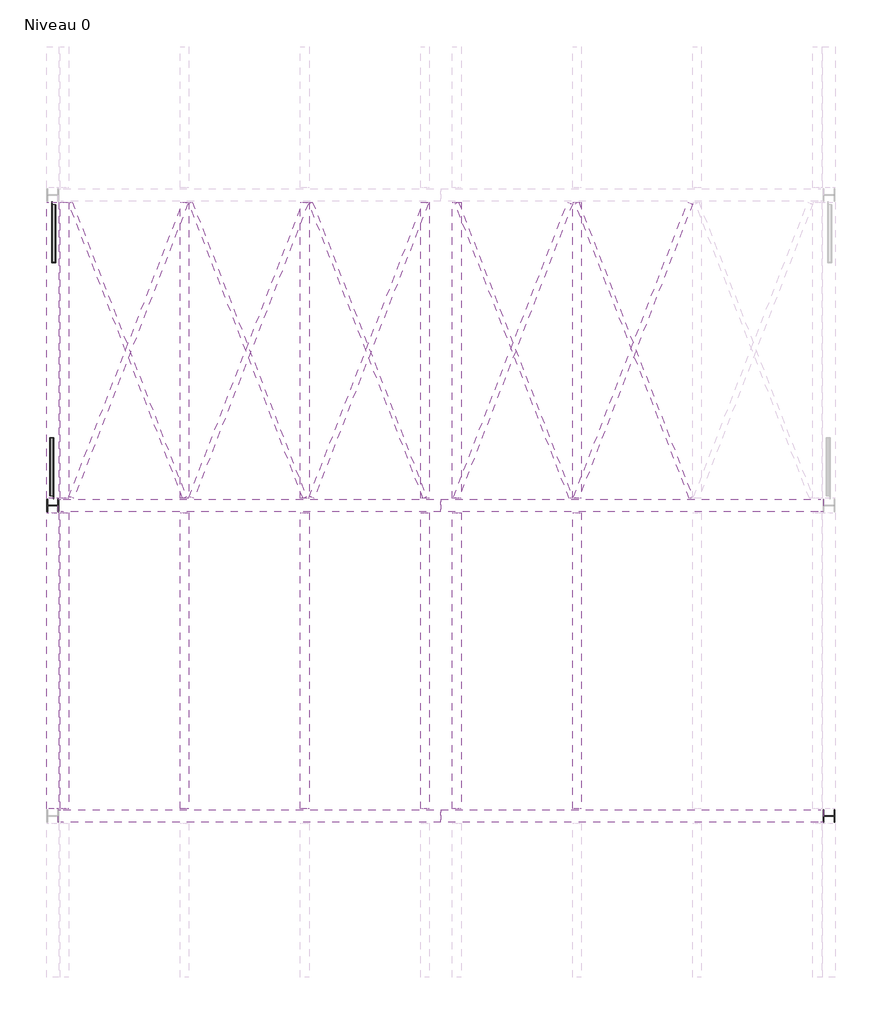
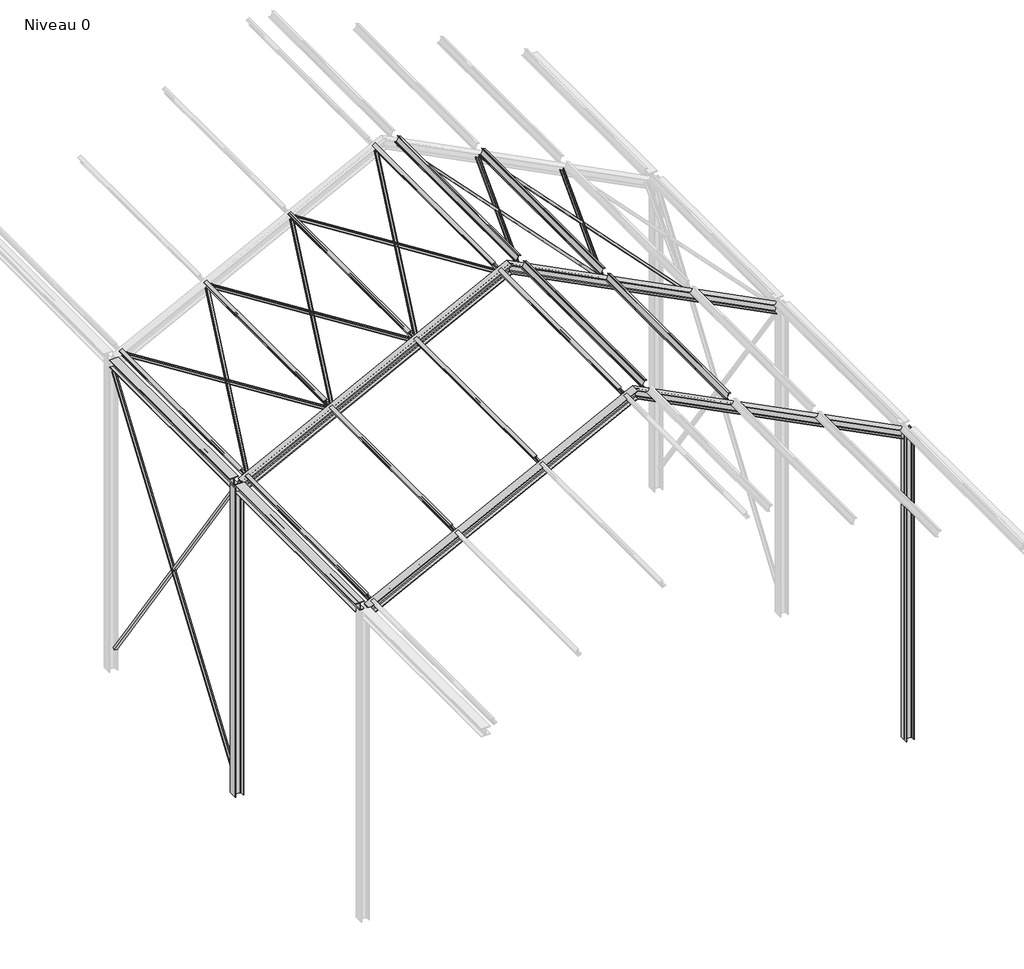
# One storey, part 2 of 3: 30 beams, 2 columns.
"""IFC4 building model written with IfcOpenShell, lengths in millimetres."""

from ifc_helpers import new_model, si_unit, frame, origin, place, context, project, spatial, polyline, circle_curve, ellipse_curve, transform, mapped, element, save
from ifc_brep_helpers import plane_surface, revolved_surface, advanced_brep
from components import hea160_7b7a9898, ipe_ipe120_a764803e, l50x5_e48557e0, l50x5_995c440c, l50x5_1feda4a4, hea160_ef068d4c

model = new_model("IFC4")

# Units and contexts
model_context = context("Model", 3, world=origin())
ifc_project = project(units=[si_unit("LENGTHUNIT", "METRE", prefix="MILLI")], contexts=[model_context])

# Site, building, storey
site = spatial("IfcSite", under=ifc_project)
building = spatial("IfcBuilding", under=site)
storey = spatial("IfcBuildingStorey", under=building, Name="Niveau 0", Elevation=0.0)

# Beams
placement = place(None, origin())
element("IfcBeam", 1, ObjectType="HE-A : HEA160", at=placement, inside=storey, context=model_context, shape_type="AdvancedBrep", body=[
    advanced_brep(
    [(136.5957173, 7920.0, 5609.1403443), (136.5957173, 7982.0, 5609.1403443), (129.7808261, 7997.0, 5622.5028762), (82.5309134, 7997.0, 5715.1497636), (75.7160222, 7982.0, 5728.5122955), (75.7160222, 7920.0, 5728.5122955), (71.6270875, 7920.0, 5736.5298146), (71.6270875, 8080.0, 5736.5298146), (75.7160222, 8080.0, 5728.5122955), (75.7160222, 8018.0, 5728.5122955), (82.5309134, 8003.0, 5715.1497636), (129.7808261, 8003.0, 5622.5028762), (136.5957173, 8018.0, 5609.1403443), (136.5957173, 8080.0, 5609.1403443), (140.684652, 8080.0, 5601.1228252), (140.684652, 7920.0, 5601.1228252), (5000.0, 7920.0, 8089.4765285), (5000.0, 7982.0, 8089.4765285), (5000.0, 7997.0, 8106.3146549), (5000.0, 7997.0, 8223.0589978), (5000.0, 7982.0, 8239.8971242), (5000.0, 7920.0, 8239.8971242), (5000.0, 7920.0, 8250.0), (5000.0, 8080.0, 8250.0), (5000.0, 8080.0, 8239.8971242), (5000.0, 8018.0, 8239.8971242), (5000.0, 8003.0, 8223.0589978), (5000.0, 8003.0, 8106.3146549), (5000.0, 8018.0, 8089.4765285), (5000.0, 8080.0, 8089.4765285), (5000.0, 8080.0, 8079.3736527), (5000.0, 7920.0, 8079.3736527)],
    [
        (0, 1),
        (1, 2, circle_curve(frame((129.7808261, 7982.0, 5622.5028762), z_axis=(0.8908354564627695, 0.0, 0.4543260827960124), x_axis=(0.0, 1.0, 0.0)), 15.0)),
        (2, 3),
        (3, 4, circle_curve(frame((82.5309134, 7982.0, 5715.1497636), z_axis=(0.8908354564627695, 0.0, 0.4543260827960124), x_axis=(0.0, 1.0, 0.0)), 15.0)),
        (4, 5),
        (5, 6),
        (6, 7),
        (7, 8),
        (8, 9),
        (9, 10, circle_curve(frame((82.5309134, 8018.0, 5715.1497636), z_axis=(0.8908354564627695, 0.0, 0.4543260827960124), x_axis=(0.0, 1.0, 0.0)), 15.0)),
        (10, 11),
        (11, 12, circle_curve(frame((129.7808261, 8018.0, 5622.5028762), z_axis=(0.8908354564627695, 0.0, 0.4543260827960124), x_axis=(0.0, 1.0, 0.0)), 15.0)),
        (12, 13),
        (13, 14),
        (14, 15),
        (15, 0),
        (0, 16),
        (16, 17),
        (17, 1),
        (17, 18, ellipse_curve(frame((5000.0, 7982.0, 8106.3146549), z_axis=(1.0, 0.0, 0.0), x_axis=(0.0, 0.0, 1.0)), 16.8381264, 15.0)),
        (18, 2),
        (18, 19),
        (19, 3),
        (19, 20, ellipse_curve(frame((5000.0, 7982.0, 8223.0589978), z_axis=(1.0, 0.0, 0.0), x_axis=(0.0, 0.0, 1.0)), 16.8381264, 15.0)),
        (20, 4),
        (20, 21),
        (21, 5),
        (21, 22),
        (22, 6),
        (22, 23),
        (23, 7),
        (23, 24),
        (24, 8),
        (24, 25),
        (25, 9),
        (25, 26, ellipse_curve(frame((5000.0, 8018.0, 8223.0589978), z_axis=(1.0, 0.0, 0.0), x_axis=(0.0, 0.0, 1.0)), 16.8381264, 15.0)),
        (26, 10),
        (26, 27),
        (27, 11),
        (27, 28, ellipse_curve(frame((5000.0, 8018.0, 8106.3146549), z_axis=(1.0, 0.0, 0.0), x_axis=(0.0, 0.0, 1.0)), 16.8381264, 15.0)),
        (28, 12),
        (28, 29),
        (29, 13),
        (29, 30),
        (30, 14),
        (30, 31),
        (31, 15),
        (31, 16),
    ],
    [
        plane_surface(frame((106.1558697, 8000.0, 5668.8263199), z_axis=(-0.8908354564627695, 0.0, -0.4543260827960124), x_axis=(-0.4543260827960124, 0.0, 0.8908354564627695))),
        plane_surface(frame((136.5957173, 7920.0, 5609.1403443), z_axis=(-0.4543260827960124, 0.0, 0.8908354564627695), x_axis=(0.8908354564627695, 0.0, 0.4543260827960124))),
        revolved_surface(polyline([(5006.814891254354, 7997.0, 8109.790249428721), (129.78082604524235, 7997.0, 5622.502876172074)]), (129.7808261, 7982.0, 5622.5028762), (0.8908354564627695, 0.0, 0.4543260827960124)),
        plane_surface(frame((129.7808261, 7997.0, 5622.5028762), z_axis=(0.0, -1.0, 0.0), x_axis=(0.8908354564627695, 0.0, 0.4543260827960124))),
        revolved_surface(polyline([(5006.8148912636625, 7997.0, 8226.534592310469), (82.5309134, 7997.0, 5715.1497636)]), (82.5309134, 7982.0, 5715.1497636), (0.8908354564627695, 0.0, 0.4543260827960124)),
        plane_surface(frame((75.7160222, 7982.0, 5728.5122955), z_axis=(0.4543260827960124, 0.0, -0.8908354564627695), x_axis=(0.8908354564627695, 0.0, 0.4543260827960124))),
        plane_surface(frame((75.7160222, 7920.0, 5728.5122955), z_axis=(0.0, -1.0, 0.0), x_axis=(0.8908354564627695, 0.0, 0.4543260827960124))),
        plane_surface(frame((71.6270875, 7920.0, 5736.5298146), z_axis=(-0.4543260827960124, 0.0, 0.8908354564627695), x_axis=(0.8908354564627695, 0.0, 0.4543260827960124))),
        plane_surface(frame((71.6270875, 8080.0, 5736.5298146), z_axis=(0.0, 1.0, 0.0), x_axis=(0.8908354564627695, 0.0, 0.4543260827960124))),
        plane_surface(frame((75.7160222, 8080.0, 5728.5122955), z_axis=(0.4543260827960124, 0.0, -0.8908354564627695), x_axis=(0.8908354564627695, 0.0, 0.4543260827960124))),
        revolved_surface(polyline([(5006.8148912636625, 8033.0, 8226.534592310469), (82.5309134, 8033.0, 5715.1497636)]), (82.5309134, 8018.0, 5715.1497636), (0.8908354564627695, 0.0, 0.4543260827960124)),
        plane_surface(frame((82.5309134, 8003.0, 5715.1497636), z_axis=(0.0, 1.0, 0.0), x_axis=(0.8908354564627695, 0.0, 0.4543260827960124))),
        revolved_surface(polyline([(5006.814891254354, 8033.0, 8109.790249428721), (129.78082604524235, 8033.0, 5622.502876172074)]), (129.7808261, 8018.0, 5622.5028762), (0.8908354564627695, 0.0, 0.4543260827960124)),
        plane_surface(frame((136.5957173, 8018.0, 5609.1403443), z_axis=(-0.4543260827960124, 0.0, 0.8908354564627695), x_axis=(0.8908354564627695, 0.0, 0.4543260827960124))),
        plane_surface(frame((136.5957173, 8080.0, 5609.1403443), z_axis=(0.0, 1.0, 0.0), x_axis=(0.8908354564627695, 0.0, 0.4543260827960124))),
        plane_surface(frame((140.684652, 8080.0, 5601.1228252), z_axis=(0.4543260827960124, 0.0, -0.8908354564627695), x_axis=(0.8908354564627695, 0.0, 0.4543260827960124))),
        plane_surface(frame((140.684652, 7920.0, 5601.1228252), z_axis=(0.0, -1.0, 0.0), x_axis=(0.8908354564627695, 0.0, 0.4543260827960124))),
        plane_surface(frame((5000.0, 8000.0, 8079.3736527), z_axis=(1.0, 0.0, 0.0), x_axis=(0.0, -1.0, 0.0))),
    ],
    [
        (0, [[1, 2, 3, 4, 5, 6, 7, 8, 9, 10, 11, 12, 13, 14, 15, 16]]),
        (1, [[-1, 17, 18, 19]]),
        (2, [[-2, -19, 20, 21]]),
        (3, [[-3, -21, 22, 23]]),
        (4, [[-4, -23, 24, 25]]),
        (5, [[-5, -25, 26, 27]]),
        (6, [[-6, -27, 28, 29]]),
        (7, [[-7, -29, 30, 31]]),
        (8, [[-8, -31, 32, 33]]),
        (9, [[-9, -33, 34, 35]]),
        (10, [[-10, -35, 36, 37]]),
        (11, [[-11, -37, 38, 39]]),
        (12, [[-12, -39, 40, 41]]),
        (13, [[-13, -41, 42, 43]]),
        (14, [[-14, -43, 44, 45]]),
        (15, [[-15, -45, 46, 47]]),
        (16, [[-16, -47, 48, -17]]),
        (17, [[-48, -46, -44, -42, -40, -38, -36, -34, -32, -30, -28, -26, -24, -22, -20, -18]]),
    ],
),
])
element("IfcBeam", 2, ObjectType="HE-A : HEA160", at=placement, inside=storey, context=model_context, shape_type="AdvancedBrep", body=[
    advanced_brep(
    [(9863.4042827, 8080.0, 5609.1403443), (9863.4042827, 8018.0, 5609.1403443), (9870.2191739, 8003.0, 5622.5028762), (9917.4690866, 8003.0, 5715.1497636), (9924.2839778, 8018.0, 5728.5122955), (9924.2839778, 8080.0, 5728.5122955), (9928.3729125, 8080.0, 5736.5298146), (9928.3729125, 7920.0, 5736.5298146), (9924.2839778, 7920.0, 5728.5122955), (9924.2839778, 7982.0, 5728.5122955), (9917.4690866, 7997.0, 5715.1497636), (9870.2191739, 7997.0, 5622.5028762), (9863.4042827, 7982.0, 5609.1403443), (9863.4042827, 7920.0, 5609.1403443), (9859.315348, 7920.0, 5601.1228252), (9859.315348, 8080.0, 5601.1228252), (5000.0, 8080.0, 8089.4765285), (5000.0, 8018.0, 8089.4765285), (5000.0, 8003.0, 8106.3146549), (5000.0, 8003.0, 8223.0589978), (5000.0, 8018.0, 8239.8971242), (5000.0, 8080.0, 8239.8971242), (5000.0, 8080.0, 8250.0), (5000.0, 7920.0, 8250.0), (5000.0, 7920.0, 8239.8971242), (5000.0, 7982.0, 8239.8971242), (5000.0, 7997.0, 8223.0589978), (5000.0, 7997.0, 8106.3146549), (5000.0, 7982.0, 8089.4765285), (5000.0, 7920.0, 8089.4765285), (5000.0, 7920.0, 8079.3736527), (5000.0, 8080.0, 8079.3736527)],
    [
        (0, 1),
        (1, 2, circle_curve(frame((9870.2191739, 8018.0, 5622.5028762), z_axis=(-0.8908354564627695, 0.0, 0.4543260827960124), x_axis=(0.0, -1.0, 0.0)), 15.0)),
        (2, 3),
        (3, 4, circle_curve(frame((9917.4690866, 8018.0, 5715.1497636), z_axis=(-0.8908354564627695, 0.0, 0.4543260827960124), x_axis=(0.0, -1.0, 0.0)), 15.0)),
        (4, 5),
        (5, 6),
        (6, 7),
        (7, 8),
        (8, 9),
        (9, 10, circle_curve(frame((9917.4690866, 7982.0, 5715.1497636), z_axis=(-0.8908354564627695, 0.0, 0.4543260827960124), x_axis=(0.0, -1.0, 0.0)), 15.0)),
        (10, 11),
        (11, 12, circle_curve(frame((9870.2191739, 7982.0, 5622.5028762), z_axis=(-0.8908354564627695, 0.0, 0.4543260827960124), x_axis=(0.0, -1.0, 0.0)), 15.0)),
        (12, 13),
        (13, 14),
        (14, 15),
        (15, 0),
        (0, 16),
        (16, 17),
        (17, 1),
        (17, 18, ellipse_curve(frame((5000.0, 8018.0, 8106.3146549), z_axis=(-1.0, 0.0, 0.0), x_axis=(0.0, 0.0, 1.0)), 16.8381264, 15.0)),
        (18, 2),
        (18, 19),
        (19, 3),
        (19, 20, ellipse_curve(frame((5000.0, 8018.0, 8223.0589978), z_axis=(-1.0, 0.0, 0.0), x_axis=(0.0, 0.0, 1.0)), 16.8381264, 15.0)),
        (20, 4),
        (20, 21),
        (21, 5),
        (21, 22),
        (22, 6),
        (22, 23),
        (23, 7),
        (23, 24),
        (24, 8),
        (24, 25),
        (25, 9),
        (25, 26, ellipse_curve(frame((5000.0, 7982.0, 8223.0589978), z_axis=(-1.0, 0.0, 0.0), x_axis=(0.0, 0.0, 1.0)), 16.8381264, 15.0)),
        (26, 10),
        (26, 27),
        (27, 11),
        (27, 28, ellipse_curve(frame((5000.0, 7982.0, 8106.3146549), z_axis=(-1.0, 0.0, 0.0), x_axis=(0.0, 0.0, 1.0)), 16.8381264, 15.0)),
        (28, 12),
        (28, 29),
        (29, 13),
        (29, 30),
        (30, 14),
        (30, 31),
        (31, 15),
        (31, 16),
    ],
    [
        plane_surface(frame((9893.8441303, 8000.0, 5668.8263199), z_axis=(0.8908354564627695, 0.0, -0.4543260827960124), x_axis=(0.4543260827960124, 0.0, 0.8908354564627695))),
        plane_surface(frame((9863.4042827, 8080.0, 5609.1403443), z_axis=(0.4543260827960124, 0.0, 0.8908354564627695), x_axis=(-0.8908354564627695, 0.0, 0.4543260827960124))),
        revolved_surface(polyline([(4993.185108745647, 8003.0, 8109.790249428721), (9870.219173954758, 8003.0, 5622.502876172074)]), (9870.2191739, 8018.0, 5622.5028762), (-0.8908354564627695, 0.0, 0.4543260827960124)),
        plane_surface(frame((9870.2191739, 8003.0, 5622.5028762), z_axis=(0.0, 1.0, 0.0), x_axis=(-0.8908354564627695, 0.0, 0.4543260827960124))),
        revolved_surface(polyline([(4993.1851087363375, 8003.0, 8226.534592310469), (9917.4690866, 8003.0, 5715.1497636)]), (9917.4690866, 8018.0, 5715.1497636), (-0.8908354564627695, 0.0, 0.4543260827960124)),
        plane_surface(frame((9924.2839778, 8018.0, 5728.5122955), z_axis=(-0.4543260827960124, 0.0, -0.8908354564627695), x_axis=(-0.8908354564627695, 0.0, 0.4543260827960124))),
        plane_surface(frame((9924.2839778, 8080.0, 5728.5122955), z_axis=(0.0, 1.0, 0.0), x_axis=(-0.8908354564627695, 0.0, 0.4543260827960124))),
        plane_surface(frame((9928.3729125, 8080.0, 5736.5298146), z_axis=(0.4543260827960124, 0.0, 0.8908354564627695), x_axis=(-0.8908354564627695, 0.0, 0.4543260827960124))),
        plane_surface(frame((9928.3729125, 7920.0, 5736.5298146), z_axis=(0.0, -1.0, 0.0), x_axis=(-0.8908354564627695, 0.0, 0.4543260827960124))),
        plane_surface(frame((9924.2839778, 7920.0, 5728.5122955), z_axis=(-0.4543260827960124, 0.0, -0.8908354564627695), x_axis=(-0.8908354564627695, 0.0, 0.4543260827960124))),
        revolved_surface(polyline([(4993.1851087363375, 7967.0, 8226.534592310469), (9917.4690866, 7967.0, 5715.1497636)]), (9917.4690866, 7982.0, 5715.1497636), (-0.8908354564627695, 0.0, 0.4543260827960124)),
        plane_surface(frame((9917.4690866, 7997.0, 5715.1497636), z_axis=(0.0, -1.0, 0.0), x_axis=(-0.8908354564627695, 0.0, 0.4543260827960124))),
        revolved_surface(polyline([(4993.185108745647, 7967.0, 8109.790249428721), (9870.219173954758, 7967.0, 5622.502876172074)]), (9870.2191739, 7982.0, 5622.5028762), (-0.8908354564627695, 0.0, 0.4543260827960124)),
        plane_surface(frame((9863.4042827, 7982.0, 5609.1403443), z_axis=(0.4543260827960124, 0.0, 0.8908354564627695), x_axis=(-0.8908354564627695, 0.0, 0.4543260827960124))),
        plane_surface(frame((9863.4042827, 7920.0, 5609.1403443), z_axis=(0.0, -1.0, 0.0), x_axis=(-0.8908354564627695, 0.0, 0.4543260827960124))),
        plane_surface(frame((9859.315348, 7920.0, 5601.1228252), z_axis=(-0.4543260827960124, 0.0, -0.8908354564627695), x_axis=(-0.8908354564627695, 0.0, 0.4543260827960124))),
        plane_surface(frame((9859.315348, 8080.0, 5601.1228252), z_axis=(0.0, 1.0, 0.0), x_axis=(-0.8908354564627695, 0.0, 0.4543260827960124))),
        plane_surface(frame((5000.0, 8000.0, 8079.3736527), z_axis=(-1.0, 0.0, 0.0), x_axis=(0.0, 1.0, 0.0))),
    ],
    [
        (0, [[1, 2, 3, 4, 5, 6, 7, 8, 9, 10, 11, 12, 13, 14, 15, 16]]),
        (1, [[-1, 17, 18, 19]]),
        (2, [[-2, -19, 20, 21]]),
        (3, [[-3, -21, 22, 23]]),
        (4, [[-4, -23, 24, 25]]),
        (5, [[-5, -25, 26, 27]]),
        (6, [[-6, -27, 28, 29]]),
        (7, [[-7, -29, 30, 31]]),
        (8, [[-8, -31, 32, 33]]),
        (9, [[-9, -33, 34, 35]]),
        (10, [[-10, -35, 36, 37]]),
        (11, [[-11, -37, 38, 39]]),
        (12, [[-12, -39, 40, 41]]),
        (13, [[-13, -41, 42, 43]]),
        (14, [[-14, -43, 44, 45]]),
        (15, [[-15, -45, 46, 47]]),
        (16, [[-16, -47, 48, -17]]),
        (17, [[-48, -46, -44, -42, -40, -38, -36, -34, -32, -30, -28, -26, -24, -22, -20, -18]]),
    ],
),
])
element("IfcBeam", 3, ObjectType="HE-A : HEA160", at=placement, inside=storey, context=model_context, shape_type="AdvancedBrep", body=[
    advanced_brep(
    [(136.5957173, 11920.0, 5609.1403443), (136.5957173, 11982.0, 5609.1403443), (129.7808261, 11997.0, 5622.5028762), (82.5309134, 11997.0, 5715.1497636), (75.7160222, 11982.0, 5728.5122955), (75.7160222, 11920.0, 5728.5122955), (71.6270875, 11920.0, 5736.5298146), (71.6270875, 12080.0, 5736.5298146), (75.7160222, 12080.0, 5728.5122955), (75.7160222, 12018.0, 5728.5122955), (82.5309134, 12003.0, 5715.1497636), (129.7808261, 12003.0, 5622.5028762), (136.5957173, 12018.0, 5609.1403443), (136.5957173, 12080.0, 5609.1403443), (140.684652, 12080.0, 5601.1228252), (140.684652, 11920.0, 5601.1228252), (5000.0, 11920.0, 8089.4765285), (5000.0, 11982.0, 8089.4765285), (5000.0, 11997.0, 8106.3146549), (5000.0, 11997.0, 8223.0589978), (5000.0, 11982.0, 8239.8971242), (5000.0, 11920.0, 8239.8971242), (5000.0, 11920.0, 8250.0), (5000.0, 12080.0, 8250.0), (5000.0, 12080.0, 8239.8971242), (5000.0, 12018.0, 8239.8971242), (5000.0, 12003.0, 8223.0589978), (5000.0, 12003.0, 8106.3146549), (5000.0, 12018.0, 8089.4765285), (5000.0, 12080.0, 8089.4765285), (5000.0, 12080.0, 8079.3736527), (5000.0, 11920.0, 8079.3736527)],
    [
        (0, 1),
        (1, 2, circle_curve(frame((129.7808261, 11982.0, 5622.5028762), z_axis=(0.8908354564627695, 0.0, 0.4543260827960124), x_axis=(0.0, 1.0, 0.0)), 15.0)),
        (2, 3),
        (3, 4, circle_curve(frame((82.5309134, 11982.0, 5715.1497636), z_axis=(0.8908354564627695, 0.0, 0.4543260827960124), x_axis=(0.0, 1.0, 0.0)), 15.0)),
        (4, 5),
        (5, 6),
        (6, 7),
        (7, 8),
        (8, 9),
        (9, 10, circle_curve(frame((82.5309134, 12018.0, 5715.1497636), z_axis=(0.8908354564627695, 0.0, 0.4543260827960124), x_axis=(0.0, 1.0, 0.0)), 15.0)),
        (10, 11),
        (11, 12, circle_curve(frame((129.7808261, 12018.0, 5622.5028762), z_axis=(0.8908354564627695, 0.0, 0.4543260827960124), x_axis=(0.0, 1.0, 0.0)), 15.0)),
        (12, 13),
        (13, 14),
        (14, 15),
        (15, 0),
        (0, 16),
        (16, 17),
        (17, 1),
        (17, 18, ellipse_curve(frame((5000.0, 11982.0, 8106.3146549), z_axis=(1.0, 0.0, 0.0), x_axis=(0.0, 0.0, 1.0)), 16.8381264, 15.0)),
        (18, 2),
        (18, 19),
        (19, 3),
        (19, 20, ellipse_curve(frame((5000.0, 11982.0, 8223.0589978), z_axis=(1.0, 0.0, 0.0), x_axis=(0.0, 0.0, 1.0)), 16.8381264, 15.0)),
        (20, 4),
        (20, 21),
        (21, 5),
        (21, 22),
        (22, 6),
        (22, 23),
        (23, 7),
        (23, 24),
        (24, 8),
        (24, 25),
        (25, 9),
        (25, 26, ellipse_curve(frame((5000.0, 12018.0, 8223.0589978), z_axis=(1.0, 0.0, 0.0), x_axis=(0.0, 0.0, 1.0)), 16.8381264, 15.0)),
        (26, 10),
        (26, 27),
        (27, 11),
        (27, 28, ellipse_curve(frame((5000.0, 12018.0, 8106.3146549), z_axis=(1.0, 0.0, 0.0), x_axis=(0.0, 0.0, 1.0)), 16.8381264, 15.0)),
        (28, 12),
        (28, 29),
        (29, 13),
        (29, 30),
        (30, 14),
        (30, 31),
        (31, 15),
        (31, 16),
    ],
    [
        plane_surface(frame((106.1558697, 12000.0, 5668.8263199), z_axis=(-0.8908354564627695, 0.0, -0.4543260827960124), x_axis=(-0.4543260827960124, 0.0, 0.8908354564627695))),
        plane_surface(frame((136.5957173, 11920.0, 5609.1403443), z_axis=(-0.4543260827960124, 0.0, 0.8908354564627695), x_axis=(0.8908354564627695, 0.0, 0.4543260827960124))),
        revolved_surface(polyline([(5006.814891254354, 11997.0, 8109.790249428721), (129.78082604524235, 11997.0, 5622.502876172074)]), (129.7808261, 11982.0, 5622.5028762), (0.8908354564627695, 0.0, 0.4543260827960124)),
        plane_surface(frame((129.7808261, 11997.0, 5622.5028762), z_axis=(0.0, -1.0, 0.0), x_axis=(0.8908354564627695, 0.0, 0.4543260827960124))),
        revolved_surface(polyline([(5006.8148912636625, 11997.0, 8226.534592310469), (82.5309134, 11997.0, 5715.1497636)]), (82.5309134, 11982.0, 5715.1497636), (0.8908354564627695, 0.0, 0.4543260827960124)),
        plane_surface(frame((75.7160222, 11982.0, 5728.5122955), z_axis=(0.4543260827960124, 0.0, -0.8908354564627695), x_axis=(0.8908354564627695, 0.0, 0.4543260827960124))),
        plane_surface(frame((75.7160222, 11920.0, 5728.5122955), z_axis=(0.0, -1.0, 0.0), x_axis=(0.8908354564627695, 0.0, 0.4543260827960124))),
        plane_surface(frame((71.6270875, 11920.0, 5736.5298146), z_axis=(-0.4543260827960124, 0.0, 0.8908354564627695), x_axis=(0.8908354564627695, 0.0, 0.4543260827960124))),
        plane_surface(frame((71.6270875, 12080.0, 5736.5298146), z_axis=(0.0, 1.0, 0.0), x_axis=(0.8908354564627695, 0.0, 0.4543260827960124))),
        plane_surface(frame((75.7160222, 12080.0, 5728.5122955), z_axis=(0.4543260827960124, 0.0, -0.8908354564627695), x_axis=(0.8908354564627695, 0.0, 0.4543260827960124))),
        revolved_surface(polyline([(5006.8148912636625, 12033.0, 8226.534592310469), (82.5309134, 12033.0, 5715.1497636)]), (82.5309134, 12018.0, 5715.1497636), (0.8908354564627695, 0.0, 0.4543260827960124)),
        plane_surface(frame((82.5309134, 12003.0, 5715.1497636), z_axis=(0.0, 1.0, 0.0), x_axis=(0.8908354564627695, 0.0, 0.4543260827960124))),
        revolved_surface(polyline([(5006.814891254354, 12033.0, 8109.790249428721), (129.78082604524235, 12033.0, 5622.502876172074)]), (129.7808261, 12018.0, 5622.5028762), (0.8908354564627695, 0.0, 0.4543260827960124)),
        plane_surface(frame((136.5957173, 12018.0, 5609.1403443), z_axis=(-0.4543260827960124, 0.0, 0.8908354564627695), x_axis=(0.8908354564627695, 0.0, 0.4543260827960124))),
        plane_surface(frame((136.5957173, 12080.0, 5609.1403443), z_axis=(0.0, 1.0, 0.0), x_axis=(0.8908354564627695, 0.0, 0.4543260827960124))),
        plane_surface(frame((140.684652, 12080.0, 5601.1228252), z_axis=(0.4543260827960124, 0.0, -0.8908354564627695), x_axis=(0.8908354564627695, 0.0, 0.4543260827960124))),
        plane_surface(frame((140.684652, 11920.0, 5601.1228252), z_axis=(0.0, -1.0, 0.0), x_axis=(0.8908354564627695, 0.0, 0.4543260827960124))),
        plane_surface(frame((5000.0, 12000.0, 8079.3736527), z_axis=(1.0, 0.0, 0.0), x_axis=(0.0, -1.0, 0.0))),
    ],
    [
        (0, [[1, 2, 3, 4, 5, 6, 7, 8, 9, 10, 11, 12, 13, 14, 15, 16]]),
        (1, [[-1, 17, 18, 19]]),
        (2, [[-2, -19, 20, 21]]),
        (3, [[-3, -21, 22, 23]]),
        (4, [[-4, -23, 24, 25]]),
        (5, [[-5, -25, 26, 27]]),
        (6, [[-6, -27, 28, 29]]),
        (7, [[-7, -29, 30, 31]]),
        (8, [[-8, -31, 32, 33]]),
        (9, [[-9, -33, 34, 35]]),
        (10, [[-10, -35, 36, 37]]),
        (11, [[-11, -37, 38, 39]]),
        (12, [[-12, -39, 40, 41]]),
        (13, [[-13, -41, 42, 43]]),
        (14, [[-14, -43, 44, 45]]),
        (15, [[-15, -45, 46, 47]]),
        (16, [[-16, -47, 48, -17]]),
        (17, [[-48, -46, -44, -42, -40, -38, -36, -34, -32, -30, -28, -26, -24, -22, -20, -18]]),
    ],
),
])
element("IfcBeam", 4, ObjectType="HE-A : HEA160", at=placement, inside=storey, context=model_context, shape_type="AdvancedBrep", body=[
    advanced_brep(
    [(9863.4042827, 12080.0, 5609.1403443), (9863.4042827, 12018.0, 5609.1403443), (9870.2191739, 12003.0, 5622.5028762), (9917.4690866, 12003.0, 5715.1497636), (9924.2839778, 12018.0, 5728.5122955), (9924.2839778, 12080.0, 5728.5122955), (9928.3729125, 12080.0, 5736.5298146), (9928.3729125, 11920.0, 5736.5298146), (9924.2839778, 11920.0, 5728.5122955), (9924.2839778, 11982.0, 5728.5122955), (9917.4690866, 11997.0, 5715.1497636), (9870.2191739, 11997.0, 5622.5028762), (9863.4042827, 11982.0, 5609.1403443), (9863.4042827, 11920.0, 5609.1403443), (9859.315348, 11920.0, 5601.1228252), (9859.315348, 12080.0, 5601.1228252), (5000.0, 12080.0, 8089.4765285), (5000.0, 12018.0, 8089.4765285), (5000.0, 12003.0, 8106.3146549), (5000.0, 12003.0, 8223.0589978), (5000.0, 12018.0, 8239.8971242), (5000.0, 12080.0, 8239.8971242), (5000.0, 12080.0, 8250.0), (5000.0, 11920.0, 8250.0), (5000.0, 11920.0, 8239.8971242), (5000.0, 11982.0, 8239.8971242), (5000.0, 11997.0, 8223.0589978), (5000.0, 11997.0, 8106.3146549), (5000.0, 11982.0, 8089.4765285), (5000.0, 11920.0, 8089.4765285), (5000.0, 11920.0, 8079.3736527), (5000.0, 12080.0, 8079.3736527)],
    [
        (0, 1),
        (1, 2, circle_curve(frame((9870.2191739, 12018.0, 5622.5028762), z_axis=(-0.8908354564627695, 0.0, 0.4543260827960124), x_axis=(0.0, -1.0, 0.0)), 15.0)),
        (2, 3),
        (3, 4, circle_curve(frame((9917.4690866, 12018.0, 5715.1497636), z_axis=(-0.8908354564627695, 0.0, 0.4543260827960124), x_axis=(0.0, -1.0, 0.0)), 15.0)),
        (4, 5),
        (5, 6),
        (6, 7),
        (7, 8),
        (8, 9),
        (9, 10, circle_curve(frame((9917.4690866, 11982.0, 5715.1497636), z_axis=(-0.8908354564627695, 0.0, 0.4543260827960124), x_axis=(0.0, -1.0, 0.0)), 15.0)),
        (10, 11),
        (11, 12, circle_curve(frame((9870.2191739, 11982.0, 5622.5028762), z_axis=(-0.8908354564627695, 0.0, 0.4543260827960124), x_axis=(0.0, -1.0, 0.0)), 15.0)),
        (12, 13),
        (13, 14),
        (14, 15),
        (15, 0),
        (0, 16),
        (16, 17),
        (17, 1),
        (17, 18, ellipse_curve(frame((5000.0, 12018.0, 8106.3146549), z_axis=(-1.0, 0.0, 0.0), x_axis=(0.0, 0.0, 1.0)), 16.8381264, 15.0)),
        (18, 2),
        (18, 19),
        (19, 3),
        (19, 20, ellipse_curve(frame((5000.0, 12018.0, 8223.0589978), z_axis=(-1.0, 0.0, 0.0), x_axis=(0.0, 0.0, 1.0)), 16.8381264, 15.0)),
        (20, 4),
        (20, 21),
        (21, 5),
        (21, 22),
        (22, 6),
        (22, 23),
        (23, 7),
        (23, 24),
        (24, 8),
        (24, 25),
        (25, 9),
        (25, 26, ellipse_curve(frame((5000.0, 11982.0, 8223.0589978), z_axis=(-1.0, 0.0, 0.0), x_axis=(0.0, 0.0, 1.0)), 16.8381264, 15.0)),
        (26, 10),
        (26, 27),
        (27, 11),
        (27, 28, ellipse_curve(frame((5000.0, 11982.0, 8106.3146549), z_axis=(-1.0, 0.0, 0.0), x_axis=(0.0, 0.0, 1.0)), 16.8381264, 15.0)),
        (28, 12),
        (28, 29),
        (29, 13),
        (29, 30),
        (30, 14),
        (30, 31),
        (31, 15),
        (31, 16),
    ],
    [
        plane_surface(frame((9893.8441303, 12000.0, 5668.8263199), z_axis=(0.8908354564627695, 0.0, -0.4543260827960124), x_axis=(0.4543260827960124, 0.0, 0.8908354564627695))),
        plane_surface(frame((9863.4042827, 12080.0, 5609.1403443), z_axis=(0.4543260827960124, 0.0, 0.8908354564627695), x_axis=(-0.8908354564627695, 0.0, 0.4543260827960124))),
        revolved_surface(polyline([(4993.185108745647, 12003.0, 8109.790249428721), (9870.219173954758, 12003.0, 5622.502876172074)]), (9870.2191739, 12018.0, 5622.5028762), (-0.8908354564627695, 0.0, 0.4543260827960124)),
        plane_surface(frame((9870.2191739, 12003.0, 5622.5028762), z_axis=(0.0, 1.0, 0.0), x_axis=(-0.8908354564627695, 0.0, 0.4543260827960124))),
        revolved_surface(polyline([(4993.1851087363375, 12003.0, 8226.534592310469), (9917.4690866, 12003.0, 5715.1497636)]), (9917.4690866, 12018.0, 5715.1497636), (-0.8908354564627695, 0.0, 0.4543260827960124)),
        plane_surface(frame((9924.2839778, 12018.0, 5728.5122955), z_axis=(-0.4543260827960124, 0.0, -0.8908354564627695), x_axis=(-0.8908354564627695, 0.0, 0.4543260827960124))),
        plane_surface(frame((9924.2839778, 12080.0, 5728.5122955), z_axis=(0.0, 1.0, 0.0), x_axis=(-0.8908354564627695, 0.0, 0.4543260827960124))),
        plane_surface(frame((9928.3729125, 12080.0, 5736.5298146), z_axis=(0.4543260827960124, 0.0, 0.8908354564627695), x_axis=(-0.8908354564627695, 0.0, 0.4543260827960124))),
        plane_surface(frame((9928.3729125, 11920.0, 5736.5298146), z_axis=(0.0, -1.0, 0.0), x_axis=(-0.8908354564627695, 0.0, 0.4543260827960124))),
        plane_surface(frame((9924.2839778, 11920.0, 5728.5122955), z_axis=(-0.4543260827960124, 0.0, -0.8908354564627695), x_axis=(-0.8908354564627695, 0.0, 0.4543260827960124))),
        revolved_surface(polyline([(4993.1851087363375, 11967.0, 8226.534592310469), (9917.4690866, 11967.0, 5715.1497636)]), (9917.4690866, 11982.0, 5715.1497636), (-0.8908354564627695, 0.0, 0.4543260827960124)),
        plane_surface(frame((9917.4690866, 11997.0, 5715.1497636), z_axis=(0.0, -1.0, 0.0), x_axis=(-0.8908354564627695, 0.0, 0.4543260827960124))),
        revolved_surface(polyline([(4993.185108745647, 11967.0, 8109.790249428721), (9870.219173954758, 11967.0, 5622.502876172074)]), (9870.2191739, 11982.0, 5622.5028762), (-0.8908354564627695, 0.0, 0.4543260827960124)),
        plane_surface(frame((9863.4042827, 11982.0, 5609.1403443), z_axis=(0.4543260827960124, 0.0, 0.8908354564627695), x_axis=(-0.8908354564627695, 0.0, 0.4543260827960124))),
        plane_surface(frame((9863.4042827, 11920.0, 5609.1403443), z_axis=(0.0, -1.0, 0.0), x_axis=(-0.8908354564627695, 0.0, 0.4543260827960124))),
        plane_surface(frame((9859.315348, 11920.0, 5601.1228252), z_axis=(-0.4543260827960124, 0.0, -0.8908354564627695), x_axis=(-0.8908354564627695, 0.0, 0.4543260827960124))),
        plane_surface(frame((9859.315348, 12080.0, 5601.1228252), z_axis=(0.0, 1.0, 0.0), x_axis=(-0.8908354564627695, 0.0, 0.4543260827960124))),
        plane_surface(frame((5000.0, 12000.0, 8079.3736527), z_axis=(-1.0, 0.0, 0.0), x_axis=(0.0, 1.0, 0.0))),
    ],
    [
        (0, [[1, 2, 3, 4, 5, 6, 7, 8, 9, 10, 11, 12, 13, 14, 15, 16]]),
        (1, [[-1, 17, 18, 19]]),
        (2, [[-2, -19, 20, 21]]),
        (3, [[-3, -21, 22, 23]]),
        (4, [[-4, -23, 24, 25]]),
        (5, [[-5, -25, 26, 27]]),
        (6, [[-6, -27, 28, 29]]),
        (7, [[-7, -29, 30, 31]]),
        (8, [[-8, -31, 32, 33]]),
        (9, [[-9, -33, 34, 35]]),
        (10, [[-10, -35, 36, 37]]),
        (11, [[-11, -37, 38, 39]]),
        (12, [[-12, -39, 40, 41]]),
        (13, [[-13, -41, 42, 43]]),
        (14, [[-14, -43, 44, 45]]),
        (15, [[-15, -45, 46, 47]]),
        (16, [[-16, -47, 48, -17]]),
        (17, [[-48, -46, -44, -42, -40, -38, -36, -34, -32, -30, -28, -26, -24, -22, -20, -18]]),
    ],
),
])
hea160_shape = hea160_7b7a9898(model_context)
element("IfcBeam", 5, ObjectType="HE-A : HEA160", at=placement, inside=storey, context=model_context, shape_type="MappedRepresentation", body=[
    mapped(hea160_shape, transform((0.0, 10000.0, 5700.0), x_axis=(0.0, -1.0, 0.0), y_axis=(1.0, 0.0, 0.0), z_axis=(0.0, 0.0, 1.0))),
])
element("IfcBeam", 6, ObjectType="HE-A : HEA160", at=placement, inside=storey, context=model_context, shape_type="MappedRepresentation", body=[
    mapped(hea160_shape, transform((0.0, 14000.0, 5700.0), x_axis=(0.0, -1.0, 0.0), y_axis=(1.0, 0.0, 0.0), z_axis=(0.0, 0.0, 1.0))),
])
ipe_ipe120_shape = ipe_ipe120_a764803e(model_context)
element("IfcBeam", 7, ObjectType="IPE : IPE120", at=placement, inside=storey, context=model_context, shape_type="MappedRepresentation", body=[
    mapped(ipe_ipe120_shape, transform((150.9075263, 10000.0, 5844.3153439), x_axis=(0.0, -1.0, 0.0), y_axis=(0.8908354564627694, 0.0, 0.4543260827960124), z_axis=(-0.4543260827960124, 0.0, 0.8908354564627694))),
])
element("IfcBeam", 8, ObjectType="IPE : IPE120", at=placement, inside=storey, context=model_context, shape_type="MappedRepresentation", body=[
    mapped(ipe_ipe120_shape, transform((150.9075263, 14000.0, 5844.3153439), x_axis=(0.0, -1.0, 0.0), y_axis=(0.8908354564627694, 0.0, 0.4543260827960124), z_axis=(-0.4543260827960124, 0.0, 0.8908354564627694))),
])
element("IfcBeam", 9, ObjectType="IPE : IPE120", at=placement, inside=storey, context=model_context, shape_type="MappedRepresentation", body=[
    mapped(ipe_ipe120_shape, transform((1698.7961321, 10000.0, 6633.7385329), x_axis=(0.0, -1.0, 0.0), y_axis=(0.8908354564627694, 0.0, 0.4543260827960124), z_axis=(-0.4543260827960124, 0.0, 0.8908354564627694))),
])
element("IfcBeam", 10, ObjectType="IPE : IPE120", at=placement, inside=storey, context=model_context, shape_type="MappedRepresentation", body=[
    mapped(ipe_ipe120_shape, transform((1698.7961321, 14000.0, 6633.7385329), x_axis=(0.0, -1.0, 0.0), y_axis=(0.8908354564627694, 0.0, 0.4543260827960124), z_axis=(-0.4543260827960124, 0.0, 0.8908354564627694))),
])
element("IfcBeam", 11, ObjectType="IPE : IPE120", at=placement, inside=storey, context=model_context, shape_type="MappedRepresentation", body=[
    mapped(ipe_ipe120_shape, transform((3246.6847379, 10000.0, 7423.1617219), x_axis=(0.0, -1.0, 0.0), y_axis=(0.8908354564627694, 0.0, 0.4543260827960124), z_axis=(-0.4543260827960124, 0.0, 0.8908354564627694))),
])
element("IfcBeam", 12, ObjectType="IPE : IPE120", at=placement, inside=storey, context=model_context, shape_type="MappedRepresentation", body=[
    mapped(ipe_ipe120_shape, transform((3246.6847379, 14000.0, 7423.1617219), x_axis=(0.0, -1.0, 0.0), y_axis=(0.8908354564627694, 0.0, 0.4543260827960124), z_axis=(-0.4543260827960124, 0.0, 0.8908354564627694))),
])
element("IfcBeam", 13, ObjectType="IPE : IPE120", at=placement, inside=storey, context=model_context, shape_type="MappedRepresentation", body=[
    mapped(ipe_ipe120_shape, transform((4794.5733437, 10000.0, 8212.5849108), x_axis=(0.0, -1.0, 0.0), y_axis=(0.8908354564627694, 0.0, 0.4543260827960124), z_axis=(-0.4543260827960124, 0.0, 0.8908354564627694))),
])
element("IfcBeam", 14, ObjectType="IPE : IPE120", at=placement, inside=storey, context=model_context, shape_type="MappedRepresentation", body=[
    mapped(ipe_ipe120_shape, transform((4794.5733437, 14000.0, 8212.5849108), x_axis=(0.0, -1.0, 0.0), y_axis=(0.8908354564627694, 0.0, 0.4543260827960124), z_axis=(-0.4543260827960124, 0.0, 0.8908354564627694))),
])
element("IfcBeam", 15, ObjectType="IPE : IPE120", at=placement, inside=storey, context=model_context, shape_type="MappedRepresentation", body=[
    mapped(ipe_ipe120_shape, transform((5205.4266563, 10000.0, 8212.5849108), x_axis=(0.0, -1.0, 0.0), y_axis=(0.8908354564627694, 0.0, -0.4543260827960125), z_axis=(0.4543260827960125, 0.0, 0.8908354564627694))),
])
element("IfcBeam", 16, ObjectType="IPE : IPE120", at=placement, inside=storey, context=model_context, shape_type="MappedRepresentation", body=[
    mapped(ipe_ipe120_shape, transform((5205.4266563, 14000.0, 8212.5849108), x_axis=(0.0, -1.0, 0.0), y_axis=(0.8908354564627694, 0.0, -0.4543260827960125), z_axis=(0.4543260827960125, 0.0, 0.8908354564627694))),
])
element("IfcBeam", 17, ObjectType="IPE : IPE120", at=placement, inside=storey, context=model_context, shape_type="MappedRepresentation", body=[
    mapped(ipe_ipe120_shape, transform((6753.3152621, 10000.0, 7423.1617219), x_axis=(0.0, -1.0, 0.0), y_axis=(0.8908354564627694, 0.0, -0.4543260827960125), z_axis=(0.4543260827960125, 0.0, 0.8908354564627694))),
])
element("IfcBeam", 18, ObjectType="IPE : IPE120", at=placement, inside=storey, context=model_context, shape_type="MappedRepresentation", body=[
    mapped(ipe_ipe120_shape, transform((6753.3152621, 14000.0, 7423.1617219), x_axis=(0.0, -1.0, 0.0), y_axis=(0.8908354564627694, 0.0, -0.4543260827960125), z_axis=(0.4543260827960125, 0.0, 0.8908354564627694))),
])
l50x5_shape = l50x5_e48557e0(model_context)
element("IfcBeam", 19, ObjectType="Cornière à ailes égales : L50x5", at=placement, inside=storey, context=model_context, shape_type="MappedRepresentation", body=[
    mapped(l50x5_shape, transform((0.0, 14009.0041236, 2843.6813168), x_axis=(0.0, -0.5744257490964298, -0.818556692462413), y_axis=(1.0, 0.0, 0.0), z_axis=(0.0, -0.818556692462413, 0.5744257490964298))),
])
element("IfcBeam", 20, ObjectType="Cornière à ailes égales : L50x5", at=placement, inside=storey, context=model_context, shape_type="MappedRepresentation", body=[
    mapped(l50x5_shape, transform((0.0, 13990.9958764, 2843.6813168), x_axis=(0.0, 0.5744257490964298, -0.818556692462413), y_axis=(-1.0, 0.0, 0.0), z_axis=(0.0, 0.818556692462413, 0.5744257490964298))),
])
l50x5_2_shape = l50x5_995c440c(model_context)
element("IfcBeam", 21, ObjectType="Cornière à ailes égales : L50x5", at=placement, inside=storey, context=model_context, shape_type="MappedRepresentation", body=[
    mapped(l50x5_2_shape, transform((4064.2443448, 14000.0, 7732.3531125), x_axis=(0.3549311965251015, 0.9172008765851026, 0.1810149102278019), y_axis=(-0.8170750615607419, 0.39842508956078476, -0.4167082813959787), z_axis=(-0.45432608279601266, 0.0, 0.8908354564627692))),
])
element("IfcBeam", 22, ObjectType="Cornière à ailes égales : L50x5", at=placement, inside=storey, context=model_context, shape_type="MappedRepresentation", body=[
    mapped(l50x5_2_shape, transform((2516.355739, 14000.0, 6942.9299236), x_axis=(0.3549311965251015, 0.9172008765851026, 0.1810149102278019), y_axis=(-0.817075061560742, 0.3984250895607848, -0.41670828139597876), z_axis=(-0.4543260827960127, 0.0, 0.8908354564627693))),
])
element("IfcBeam", 23, ObjectType="Cornière à ailes égales : L50x5", at=placement, inside=storey, context=model_context, shape_type="MappedRepresentation", body=[
    mapped(l50x5_2_shape, transform((968.4671332, 14000.0, 6153.5067346), x_axis=(0.3549311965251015, 0.9172008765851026, 0.18101491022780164), y_axis=(-0.8170750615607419, 0.39842508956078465, -0.41670828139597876), z_axis=(-0.45432608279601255, 0.0, 0.8908354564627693))),
])
element("IfcBeam", 24, ObjectType="Cornière à ailes égales : L50x5", at=placement, inside=storey, context=model_context, shape_type="MappedRepresentation", body=[
    mapped(l50x5_2_shape, transform((5935.7556552, 14000.0, 7732.3531125), x_axis=(-0.3549311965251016, -0.9172008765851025, 0.18101491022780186), y_axis=(0.8170750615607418, -0.3984250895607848, -0.4167082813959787), z_axis=(0.45432608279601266, 0.0, 0.8908354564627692))),
])
element("IfcBeam", 25, ObjectType="Cornière à ailes égales : L50x5", at=placement, inside=storey, context=model_context, shape_type="MappedRepresentation", body=[
    mapped(l50x5_2_shape, transform((7483.644261, 14000.0, 6942.9299236), x_axis=(-0.35493119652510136, -0.9172008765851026, 0.1810149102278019), y_axis=(0.817075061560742, -0.39842508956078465, -0.41670828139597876), z_axis=(0.4543260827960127, 0.0, 0.8908354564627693))),
])
l50x5_3_shape = l50x5_1feda4a4(model_context)
element("IfcBeam", 26, ObjectType="Cornière à ailes égales : L50x5", at=placement, inside=storey, context=model_context, shape_type="MappedRepresentation", body=[
    mapped(l50x5_3_shape, transform((4064.2443448, 14000.0, 7732.3531125), x_axis=(0.3549311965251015, -0.9172008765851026, 0.1810149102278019), y_axis=(0.8170750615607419, 0.39842508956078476, 0.4167082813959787), z_axis=(-0.45432608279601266, 0.0, 0.8908354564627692))),
])
element("IfcBeam", 27, ObjectType="Cornière à ailes égales : L50x5", at=placement, inside=storey, context=model_context, shape_type="MappedRepresentation", body=[
    mapped(l50x5_3_shape, transform((2516.355739, 14000.0, 6942.9299236), x_axis=(0.3549311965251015, -0.9172008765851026, 0.1810149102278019), y_axis=(0.817075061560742, 0.3984250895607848, 0.41670828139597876), z_axis=(-0.4543260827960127, 0.0, 0.8908354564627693))),
])
element("IfcBeam", 28, ObjectType="Cornière à ailes égales : L50x5", at=placement, inside=storey, context=model_context, shape_type="MappedRepresentation", body=[
    mapped(l50x5_3_shape, transform((968.4671332, 14000.0, 6153.5067346), x_axis=(0.3549311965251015, -0.9172008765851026, 0.18101491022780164), y_axis=(0.8170750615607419, 0.39842508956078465, 0.41670828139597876), z_axis=(-0.45432608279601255, 0.0, 0.8908354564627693))),
])
element("IfcBeam", 29, ObjectType="Cornière à ailes égales : L50x5", at=placement, inside=storey, context=model_context, shape_type="MappedRepresentation", body=[
    mapped(l50x5_3_shape, transform((5935.7556552, 14000.0, 7732.3531125), x_axis=(-0.3549311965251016, 0.9172008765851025, 0.18101491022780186), y_axis=(-0.8170750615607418, -0.3984250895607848, 0.4167082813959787), z_axis=(0.45432608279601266, 0.0, 0.8908354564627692))),
])
element("IfcBeam", 30, ObjectType="Cornière à ailes égales : L50x5", at=placement, inside=storey, context=model_context, shape_type="MappedRepresentation", body=[
    mapped(l50x5_3_shape, transform((7483.644261, 14000.0, 6942.9299236), x_axis=(-0.35493119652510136, 0.9172008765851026, 0.1810149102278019), y_axis=(-0.817075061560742, -0.39842508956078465, 0.41670828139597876), z_axis=(0.4543260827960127, 0.0, 0.8908354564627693))),
])

# Columns
hea160_2_shape = hea160_ef068d4c(model_context)
element("IfcColumn", 31, ObjectType="Poteau HE-A : HEA160", at=placement, inside=storey, context=model_context, shape_type="MappedRepresentation", body=[
    mapped(hea160_2_shape, transform((10000.0, 8000.0, 0.0), x_axis=(0.0, 1.0000000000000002, 0.0), y_axis=(-1.0000000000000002, 0.0, 0.0), z_axis=(0.0, 0.0, 1.0))),
])
element("IfcColumn", 32, ObjectType="Poteau HE-A : HEA160", at=placement, inside=storey, context=model_context, shape_type="MappedRepresentation", body=[
    mapped(hea160_2_shape, transform((0.0, 12000.0, 0.0), x_axis=(0.0, 1.0000000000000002, 0.0), y_axis=(-1.0000000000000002, 0.0, 0.0), z_axis=(0.0, 0.0, 1.0))),
])

save(model, "model.ifc")
